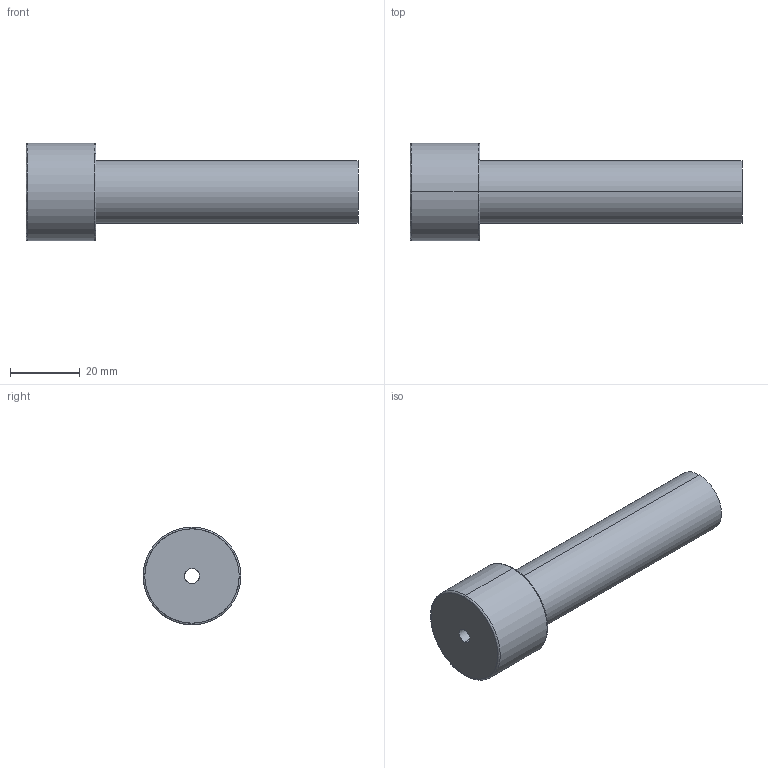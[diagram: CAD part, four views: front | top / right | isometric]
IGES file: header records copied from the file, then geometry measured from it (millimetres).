
Start section: START RECORD GO HERE.
Global section: file name: 367F-18X95.igs; native system: DASSAULT SYSTEMES CATIA V5 R20 - www.3ds.com; preprocessor: CATIA Version 5 Release 20 ; author: Utente; organization: NB04-ASUS; date: 20210324.170217; units: millimetre
Bounding box: 95 x 28 x 28 mm (x, y, z)
Surface area: 9138.4 mm2 (no closed solid volume)
Topology: 0 solids, 0 shells, 13 faces, 84 edges, 84 vertices
Faces by surface type: revolution 10, plane 3
